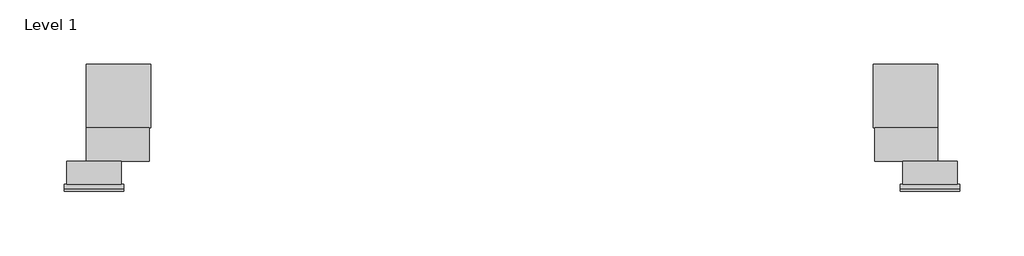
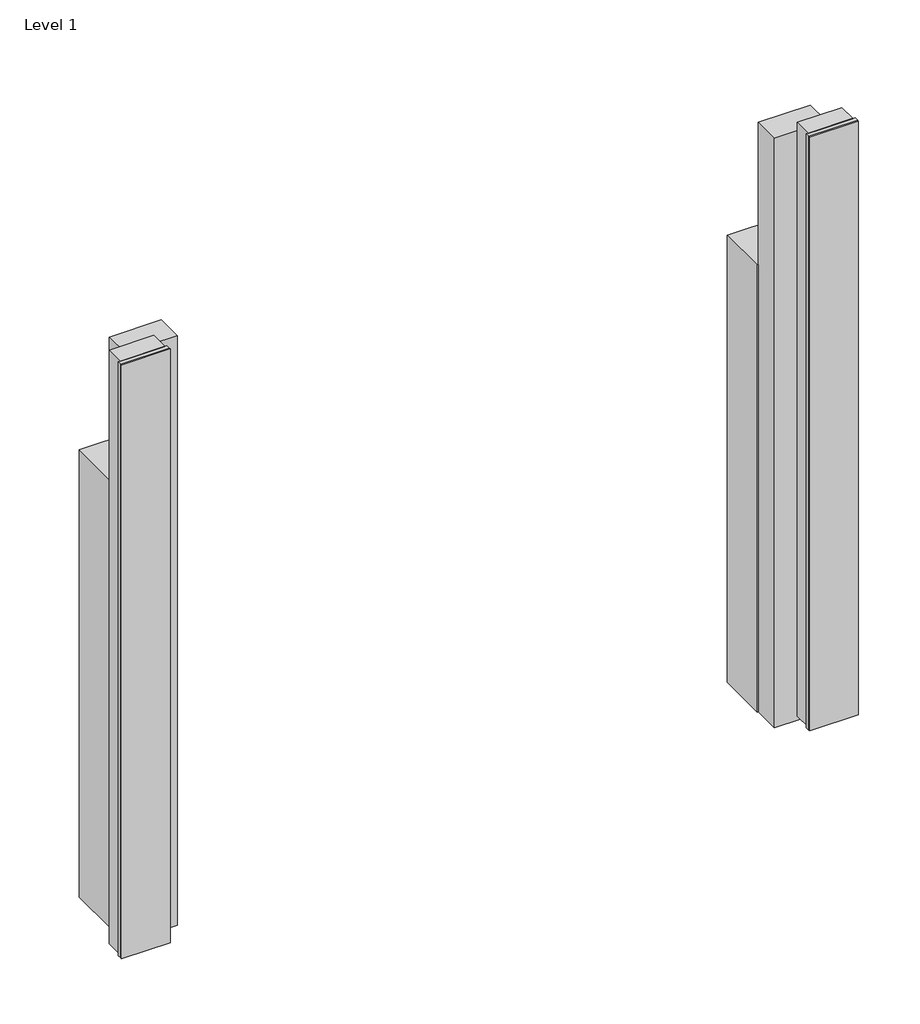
# One storey: 1 proxy.
"""IFC4 building model written with IfcOpenShell, lengths in millimetres."""

from ifc_helpers import new_model, si_unit, origin, place, context, project, spatial, transform, mapped, element, save
from components import specialty_equipment_3522fc45

model = new_model("IFC4")

# Units and contexts
model_context = context("Model", 3, world=origin())
ifc_project = project(units=[si_unit("LENGTHUNIT", "METRE", prefix="MILLI")], contexts=[model_context])

# Site, building, storey
site = spatial("IfcSite", under=ifc_project)
building = spatial("IfcBuilding", under=site)
storey = spatial("IfcBuildingStorey", under=building, Name="Level 1", Elevation=0.0)

# Proxy
placement = place(None, origin())
specialty_equipment_shape = specialty_equipment_3522fc45(model_context)
element("IfcBuildingElementProxy", 1, Name="11515840_USA_EBA7767_EDST-CLST : 29992970_USA_11515840_EBA7767_EDST-CLST", ObjectType="11515840_USA_EBA7767_EDST-CLST : 29992970_USA_11515840_EBA7767_EDST-CLST", at=placement, inside=storey, context=model_context, shape_type="MappedRepresentation", body=[
    mapped(specialty_equipment_shape, transform((0.0, 0.0, 0.0), x_axis=(1.0, 0.0, 0.0), y_axis=(0.0, 1.0, 0.0), z_axis=(0.0, 0.0, 1.0))),
])

save(model, "model.ifc")
